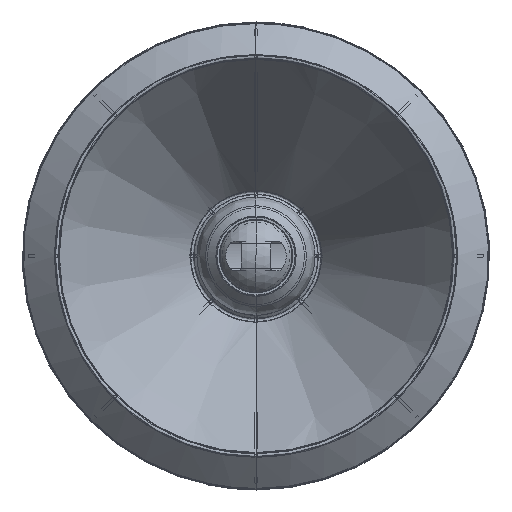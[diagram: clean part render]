
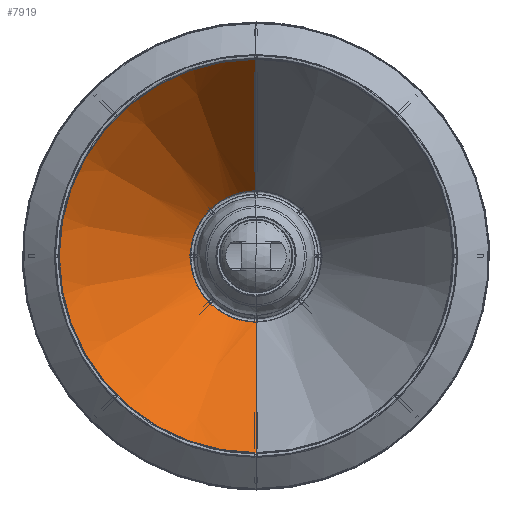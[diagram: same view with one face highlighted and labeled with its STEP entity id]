
A CAD part, top view. The second image highlights one B-rep face of the part: STEP entity #7919.
In plain terms, the highlighted conical face has half-angle 35.4 degrees and reference radius 114.936 mm.
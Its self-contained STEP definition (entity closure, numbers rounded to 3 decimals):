
#73=CONICAL_SURFACE('',#8658,114.936,0.618);
#742=B_SPLINE_CURVE_WITH_KNOTS('',3,(#23346,#23347,#23348,#23349,#23350,
#23351,#23352,#23353,#23354,#23355,#23356,#23357,#23358,#23359,#23360,#23361,
#23362,#23363,#23364),.UNSPECIFIED.,.F.,.F.,(4,1,1,1,1,1,1,1,1,1,1,1,1,
1,1,1,4),(0.,0.063,0.125,0.188,0.25,0.313,0.375,0.438,0.5,0.563,0.625,
0.688,0.75,0.813,0.875,0.938,1.),.UNSPECIFIED.);
#744=B_SPLINE_CURVE_WITH_KNOTS('',3,(#23383,#23384,#23385,#23386,#23387,
#23388,#23389,#23390,#23391,#23392,#23393,#23394),.UNSPECIFIED.,.F.,.F.,
(4,1,1,1,1,1,1,1,1,4),(0.,0.111,0.222,0.333,
0.444,0.556,0.667,0.778,
0.889,1.),.UNSPECIFIED.);
#1367=FACE_OUTER_BOUND('',#1897,.T.);
#1897=EDGE_LOOP('',(#6764,#6765,#6766,#6767));
#2568=LINE('',#23367,#2927);
#2569=LINE('',#23381,#2928);
#2927=VECTOR('',#10306,304.8);
#2928=VECTOR('',#10307,304.8);
#3578=VERTEX_POINT('',#23159);
#3579=VERTEX_POINT('',#23233);
#3580=VERTEX_POINT('',#23366);
#3581=VERTEX_POINT('',#23368);
#4649=EDGE_CURVE('',#3578,#3579,#742,.T.);
#4650=EDGE_CURVE('',#3580,#3578,#2568,.T.);
#4652=EDGE_CURVE('',#3579,#3581,#2569,.T.);
#4653=EDGE_CURVE('',#3580,#3581,#744,.T.);
#6764=ORIENTED_EDGE('',*,*,#4649,.T.);
#6765=ORIENTED_EDGE('',*,*,#4652,.T.);
#6766=ORIENTED_EDGE('',*,*,#4653,.F.);
#6767=ORIENTED_EDGE('',*,*,#4650,.T.);
#7919=ADVANCED_FACE('',(#1367),#73,.F.);
#8658=AXIS2_PLACEMENT_3D('',#23382,#10308,#10309);
#10306=DIRECTION('',(0.,-0.579,-0.815));
#10307=DIRECTION('',(0.,-0.579,0.815));
#10308=DIRECTION('center_axis',(0.,0.,
-1.));
#10309=DIRECTION('ref_axis',(-0.588,0.809,0.));
#23159=CARTESIAN_POINT('',(0.,-318.931,45.015));
#23233=CARTESIAN_POINT('',(0.,318.931,45.015));
#23346=CARTESIAN_POINT('Ctrl Pts',(0.,-318.931,
45.015));
#23347=CARTESIAN_POINT('Ctrl Pts',(-20.879,-318.959,
45.015));
#23348=CARTESIAN_POINT('Ctrl Pts',(-62.619,-314.806,
45.015));
#23349=CARTESIAN_POINT('Ctrl Pts',(-122.837,-296.557,
45.015));
#23350=CARTESIAN_POINT('Ctrl Pts',(-178.331,-266.89,
45.015));
#23351=CARTESIAN_POINT('Ctrl Pts',(-226.972,-226.972,
45.015));
#23352=CARTESIAN_POINT('Ctrl Pts',(-266.891,-178.331,
45.015));
#23353=CARTESIAN_POINT('Ctrl Pts',(-296.553,-122.836,
45.015));
#23354=CARTESIAN_POINT('Ctrl Pts',(-314.819,-62.621,45.015));
#23355=CARTESIAN_POINT('Ctrl Pts',(-320.987,0.,
45.015));
#23356=CARTESIAN_POINT('Ctrl Pts',(-314.819,62.621,45.015));
#23357=CARTESIAN_POINT('Ctrl Pts',(-296.553,122.836,45.015));
#23358=CARTESIAN_POINT('Ctrl Pts',(-266.891,178.331,45.015));
#23359=CARTESIAN_POINT('Ctrl Pts',(-226.972,226.972,45.015));
#23360=CARTESIAN_POINT('Ctrl Pts',(-178.331,266.89,45.015));
#23361=CARTESIAN_POINT('Ctrl Pts',(-122.837,296.557,45.015));
#23362=CARTESIAN_POINT('Ctrl Pts',(-62.619,314.806,45.015));
#23363=CARTESIAN_POINT('Ctrl Pts',(-20.879,318.959,45.015));
#23364=CARTESIAN_POINT('Ctrl Pts',(0.,318.931,
45.015));
#23366=CARTESIAN_POINT('',(0.,-92.27,363.957));
#23367=CARTESIAN_POINT('',(0.,-92.27,363.957));
#23368=CARTESIAN_POINT('',(0.,92.27,363.957));
#23381=CARTESIAN_POINT('',(0.,318.931,45.015));
#23382=CARTESIAN_POINT('Origin',(0.,0.,
332.063));
#23383=CARTESIAN_POINT('Ctrl Pts',(0.,-92.27,
363.957));
#23384=CARTESIAN_POINT('Ctrl Pts',(-10.763,-92.347,
363.957));
#23385=CARTESIAN_POINT('Ctrl Pts',(-32.193,-88.448,
363.957));
#23386=CARTESIAN_POINT('Ctrl Pts',(-60.53,-72.143,363.957));
#23387=CARTESIAN_POINT('Ctrl Pts',(-81.547,-47.079,
363.957));
#23388=CARTESIAN_POINT('Ctrl Pts',(-92.733,-16.352,
363.957));
#23389=CARTESIAN_POINT('Ctrl Pts',(-92.733,16.352,363.957));
#23390=CARTESIAN_POINT('Ctrl Pts',(-81.547,47.079,363.957));
#23391=CARTESIAN_POINT('Ctrl Pts',(-60.53,72.143,363.957));
#23392=CARTESIAN_POINT('Ctrl Pts',(-32.193,88.448,363.957));
#23393=CARTESIAN_POINT('Ctrl Pts',(-10.763,92.347,363.957));
#23394=CARTESIAN_POINT('Ctrl Pts',(0.,92.27,
363.957));
